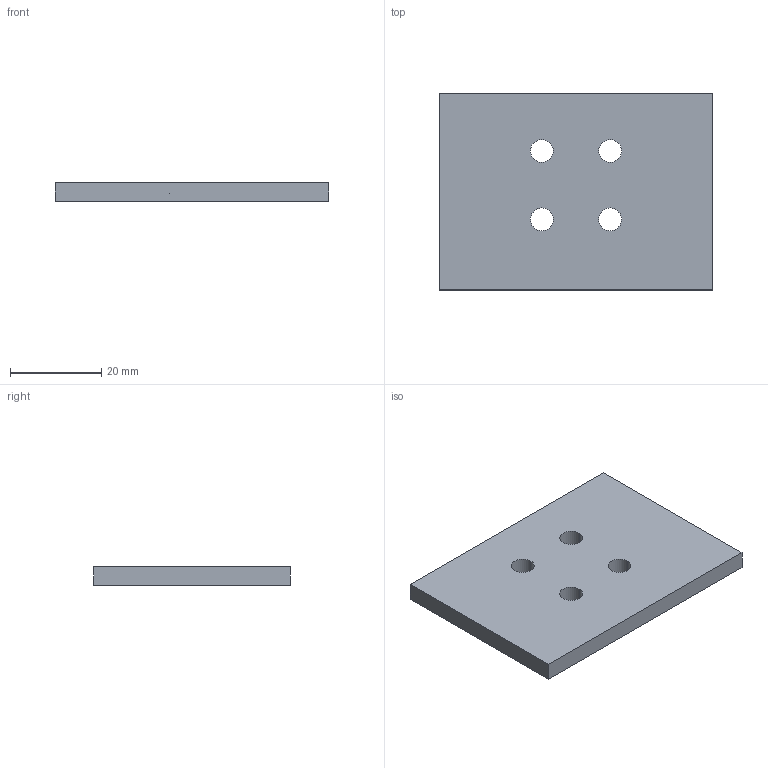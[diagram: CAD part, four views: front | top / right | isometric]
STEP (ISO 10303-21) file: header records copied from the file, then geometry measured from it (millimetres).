
FILE_DESCRIPTION((''),'2;1');
FILE_NAME('FRCK31-013','2018-02-23T09:56:17',('anacleto.m'),(''),'CREO PARAMETRIC BY PTC INC, 2017380','CREO PARAMETRIC BY PTC INC, 2017380','');
FILE_SCHEMA(('CONFIG_CONTROL_DESIGN'));
Length unit declared in the file: millimetre
Products named in the file (1): FRCK31-013
Bounding box: 60 x 43 x 4 mm (x, y, z)
Volume: 10005.8 mm3; surface area: 6078.2 mm2
Topology: 1 solids, 1 shells, 14 faces, 36 edges, 24 vertices
Faces by surface type: cylinder 8, plane 6
Entity records: 490 total; most frequent: DIRECTION 80, CARTESIAN_POINT 74, ORIENTED_EDGE 72, EDGE_CURVE 36, AXIS2_PLACEMENT_3D 30, VERTEX_POINT 24, EDGE_LOOP 22, VECTOR 20
